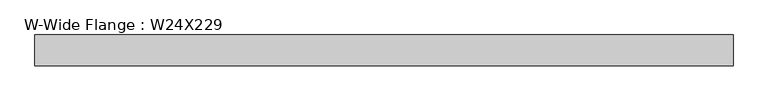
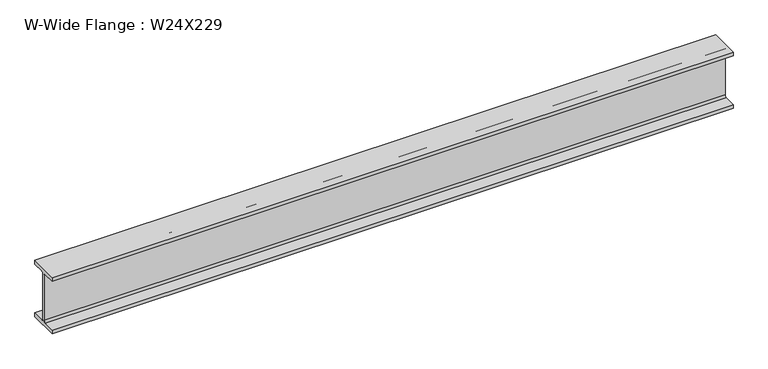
"""IFC4 building model written with IfcOpenShell, lengths in millimetres: beam geometry, W-Wide Flange : W24X229."""

from ifc_helpers import new_model, si_unit, point, frame, frame_2d, origin, place, context, project, spatial, polyline, circle_curve, trimmed, segment, composite_curve, outline, extrude, source, transform, mapped, element, save


def w_wide_flange_w24x229_eebb78a0(model_context):
    return source(origin(), model_context, "Body", "SweptSolid", [
        extrude(outline(composite_curve([segment(polyline([(-166.37, -286.258), (-34.925, -286.258)]), True, "CONTINUOUS"), segment(trimmed(circle_curve(frame_2d((-34.925, -263.525)), 22.733), [point((-34.925, -286.258))], [point((-12.192, -263.525))], True, "CARTESIAN"), True, "CONTINUOUS"), segment(polyline([(-12.192, -263.525), (-12.192, 263.525)]), True, "CONTINUOUS"), segment(trimmed(circle_curve(frame_2d((-34.925, 263.525)), 22.733), [point((-12.192, 263.525))], [point((-34.925, 286.258))], True, "CARTESIAN"), True, "CONTINUOUS"), segment(polyline([(-34.925, 286.258), (-166.37, 286.258), (-166.37, 330.2), (166.37, 330.2), (166.37, 286.258), (34.925, 286.258)]), True, "CONTINUOUS"), segment(trimmed(circle_curve(frame_2d((34.925, 263.525)), 22.733), [point((34.925, 286.258))], [point((12.192, 263.525))], True, "CARTESIAN"), True, "CONTINUOUS"), segment(polyline([(12.192, 263.525), (12.192, -263.525)]), True, "CONTINUOUS"), segment(trimmed(circle_curve(frame_2d((34.925, -263.525)), 22.733), [point((12.192, -263.525))], [point((34.925, -286.258))], True, "CARTESIAN"), True, "CONTINUOUS"), segment(polyline([(34.925, -286.258), (166.37, -286.258), (166.37, -330.2), (-166.37, -330.2), (-166.37, -286.258)]), True, "CONTINUOUS")], self_intersect=False)), frame((-3793.384977, 0.0, 0.0), z_axis=(1.0, 0.0, 0.0), x_axis=(0.0, 1.0, 0.0)), (0.0, 0.0, 1.0), 7550.785),
    ])


if __name__ == "__main__":
    model = new_model("IFC4")
    model_context = context("Model", 3, world=origin())
    ifc_project = project(units=[si_unit("LENGTHUNIT", "METRE", prefix="MILLI")], contexts=[model_context])
    site = spatial("IfcSite", under=ifc_project)
    building = spatial("IfcBuilding", under=site)
    placement = place(None, origin())
    w_wide_flange_w24x229_shape = w_wide_flange_w24x229_eebb78a0(model_context)
    element("IfcBeam", 1, ObjectType="W-Wide Flange : W24X229", at=placement, inside=building, context=model_context, shape_type="MappedRepresentation", body=[
        mapped(w_wide_flange_w24x229_shape, transform((0.0, 0.0, 0.0), x_axis=(1.0, 0.0, 0.0), y_axis=(0.0, 1.0, 0.0), z_axis=(0.0, 0.0, 1.0))),
    ])
    save(model, "model.ifc")
